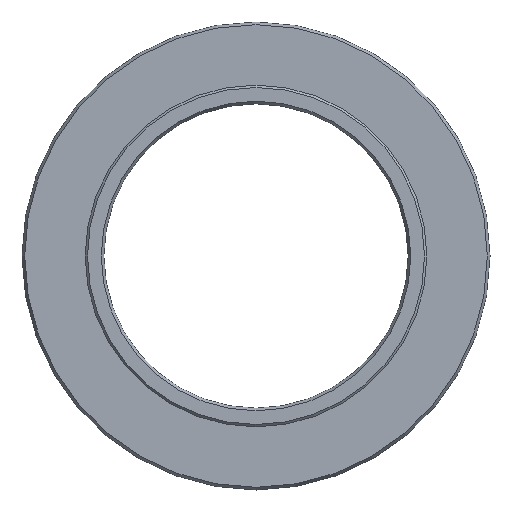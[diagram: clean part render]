
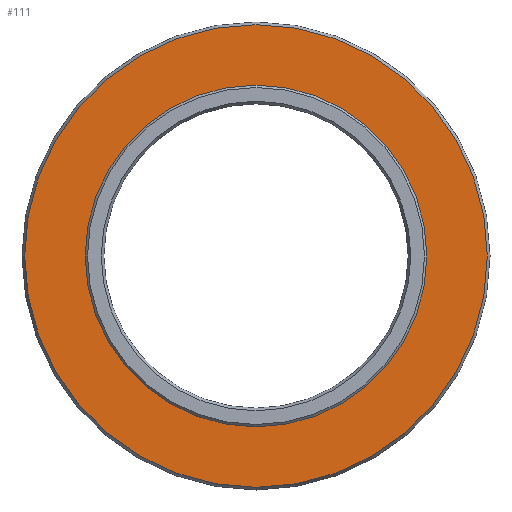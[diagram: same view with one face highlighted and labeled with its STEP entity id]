
A CAD part, left-side view. The second image highlights one B-rep face of the part: STEP entity #111.
In plain terms, the highlighted planar face has unit normal (-1, 0, 0).
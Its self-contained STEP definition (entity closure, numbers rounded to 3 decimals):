
#97=PLANE('',#323);
#111=ADVANCED_FACE('',(#144,#145),#97,.T.);
#144=FACE_BOUND('',#175,.T.);
#145=FACE_BOUND('',#176,.T.);
#175=EDGE_LOOP('',(#214));
#176=EDGE_LOOP('',(#215));
#214=ORIENTED_EDGE('',*,*,#279,.T.);
#215=ORIENTED_EDGE('',*,*,#280,.T.);
#258=VERTEX_POINT('',#461);
#259=VERTEX_POINT('',#463);
#279=EDGE_CURVE('',#258,#258,#298,.T.);
#280=EDGE_CURVE('',#259,#259,#299,.T.);
#298=CIRCLE('',#321,49.423);
#299=CIRCLE('',#322,36.5);
#321=AXIS2_PLACEMENT_3D('',#460,#369,#370);
#322=AXIS2_PLACEMENT_3D('',#462,#371,#372);
#323=AXIS2_PLACEMENT_3D('',#464,#373,#374);
#369=DIRECTION('',(-1.,0.,0.));
#370=DIRECTION('',(0.,0.,1.));
#371=DIRECTION('',(1.,0.,0.));
#372=DIRECTION('',(0.,0.,-1.));
#373=DIRECTION('',(-1.,0.,0.));
#374=DIRECTION('',(0.,0.,1.));
#460=CARTESIAN_POINT('',(0.,0.,0.));
#461=CARTESIAN_POINT('',(0.,0.,49.423));
#462=CARTESIAN_POINT('',(0.,0.,0.));
#463=CARTESIAN_POINT('',(0.,0.,-36.5));
#464=CARTESIAN_POINT('',(0.,50.,0.));
